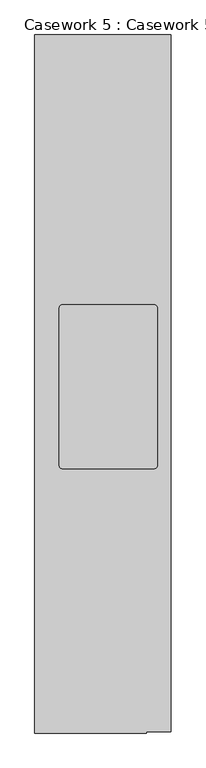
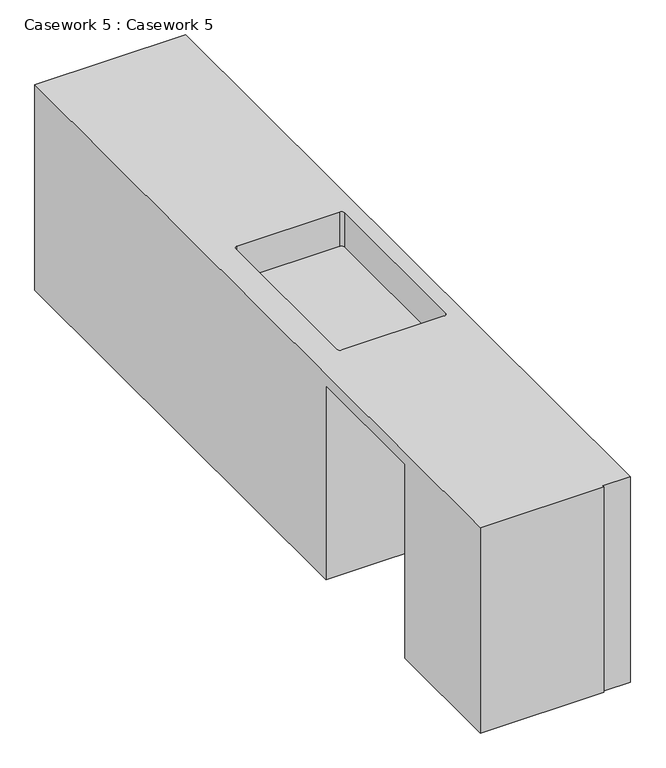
"""IFC4 building model written with IfcOpenShell, lengths in millimetres: furniture geometry, Casework 5 : Casework 5."""

from ifc_helpers import new_model, si_unit, frame, origin, place, context, project, spatial, polyline, circle_curve, source, transform, mapped, element, save
from ifc_brep_helpers import plane_surface, revolved_surface, advanced_brep


def casework_5_casework_5_048c20d9(model_context):
    return source(origin(), model_context, "Body", "AdvancedBrep", [
        advanced_brep(
        [(3937.0, 8229.4947939, 4262.4), (3302.0, 8229.4947939, 4262.4), (3302.0, 4978.2947939, 4262.4), (3822.7, 4978.2947939, 4262.4), (3822.7, 4984.6447939, 4262.4), (3937.0, 4984.6447939, 4262.4), (3429.0, 6972.1947939, 4262.4), (3860.8, 6972.1947939, 4262.4), (3873.5, 6959.4947939, 4262.4), (3873.5, 6222.8947939, 4262.4), (3860.8, 6210.1947939, 4262.4), (3429.0, 6210.1947939, 4262.4), (3416.3, 6222.8947939, 4262.4), (3416.3, 6959.4947939, 4262.4), (3937.0, 8229.4947939, 3348.0), (3937.0, 4984.6447939, 3348.0), (3822.7, 4984.6447939, 3348.0), (3822.7, 4978.2947939, 3348.0), (3302.0, 4978.2947939, 3348.0), (3302.0, 5528.7735764, 3348.0), (3886.2, 5528.7735764, 3348.0), (3886.2, 6105.4197739, 3348.0), (3302.0, 6105.4197739, 3348.0), (3302.0, 8229.4947939, 3348.0), (3302.0, 6105.4197739, 4211.6), (3302.0, 5528.7735764, 4211.6), (3429.0, 6972.1947939, 4110.0), (3416.3, 6959.4947939, 4110.0), (3416.3, 6222.8947939, 4110.0), (3429.0, 6210.1947939, 4110.0), (3860.8, 6210.1947939, 4110.0), (3873.5, 6222.8947939, 4110.0), (3873.5, 6959.4947939, 4110.0), (3860.8, 6972.1947939, 4110.0), (3886.2, 5528.7735764, 4211.6), (3886.2, 6105.4197739, 4211.6)],
        [
            (0, 1),
            (1, 2),
            (2, 3),
            (3, 4),
            (4, 5),
            (5, 0),
            (6, 7),
            (7, 8, circle_curve(frame((3860.8, 6959.4947939, 4262.4), z_axis=(0.0, 0.0, -1.0), x_axis=(0.0, 1.0, 0.0)), 12.7)),
            (8, 9),
            (9, 10, circle_curve(frame((3860.8, 6222.8947939, 4262.4), z_axis=(0.0, 0.0, -1.0), x_axis=(0.0, 1.0, 0.0)), 12.7)),
            (10, 11),
            (11, 12, circle_curve(frame((3429.0, 6222.8947939, 4262.4), z_axis=(0.0, 0.0, -1.0), x_axis=(0.0, 1.0, 0.0)), 12.7)),
            (12, 13),
            (13, 6, circle_curve(frame((3429.0, 6959.4947939, 4262.4), z_axis=(0.0, 0.0, -1.0), x_axis=(0.0, 1.0, 0.0)), 12.7)),
            (14, 15),
            (15, 16),
            (16, 17),
            (17, 18),
            (18, 19),
            (19, 20),
            (20, 21),
            (21, 22),
            (22, 23),
            (23, 14),
            (0, 14),
            (23, 1),
            (22, 24),
            (24, 25),
            (25, 19),
            (18, 2),
            (17, 3),
            (16, 4),
            (15, 5),
            (26, 27, circle_curve(frame((3429.0, 6959.4947939, 4110.0), z_axis=(0.0, 0.0, 1.0), x_axis=(0.0, 1.0, 0.0)), 12.7)),
            (27, 28),
            (28, 29, circle_curve(frame((3429.0, 6222.8947939, 4110.0), z_axis=(0.0, 0.0, 1.0), x_axis=(0.0, 1.0, 0.0)), 12.7)),
            (29, 30),
            (30, 31, circle_curve(frame((3860.8, 6222.8947939, 4110.0), z_axis=(0.0, 0.0, 1.0), x_axis=(0.0, 1.0, 0.0)), 12.7)),
            (31, 32),
            (32, 33, circle_curve(frame((3860.8, 6959.4947939, 4110.0), z_axis=(0.0, 0.0, 1.0), x_axis=(0.0, 1.0, 0.0)), 12.7)),
            (33, 26),
            (33, 7),
            (6, 26),
            (32, 8),
            (31, 9),
            (30, 10),
            (29, 11),
            (28, 12),
            (27, 13),
            (34, 25),
            (24, 35),
            (35, 34),
            (34, 20),
            (21, 35),
        ],
        [
            plane_surface(frame((3302.0, 8229.4947939, 4262.4), z_axis=(0.0, 0.0, 1.0), x_axis=(-1.0, 0.0, 0.0))),
            plane_surface(frame((3302.0, 8229.4947939, 3348.0), z_axis=(0.0, 0.0, -1.0), x_axis=(1.0, 0.0, 0.0))),
            plane_surface(frame((3937.0, 8229.4947939, 4262.4), z_axis=(0.0, 1.0, 0.0), x_axis=(0.0, 0.0, -1.0))),
            plane_surface(frame((3302.0, 8229.4947939, 4262.4), z_axis=(-1.0, 0.0, 0.0), x_axis=(0.0, 0.0, -1.0))),
            plane_surface(frame((3302.0, 4978.2947939, 4262.4), z_axis=(0.0, -1.0, 0.0), x_axis=(0.0, 0.0, -1.0))),
            plane_surface(frame((3822.7, 4978.2947939, 4262.4), z_axis=(1.0, 0.0, 0.0), x_axis=(0.0, 0.0, -1.0))),
            plane_surface(frame((3822.7, 4984.6447939, 4262.4), z_axis=(0.0, -1.0, 0.0), x_axis=(0.0, 0.0, -1.0))),
            plane_surface(frame((3937.0, 4984.6447939, 4262.4), z_axis=(1.0, 0.0, 0.0), x_axis=(0.0, 0.0, -1.0))),
            plane_surface(frame((3860.8, 6972.1947939, 4110.0), z_axis=(0.0, 0.0, 1.0), x_axis=(1.0, 0.0, 0.0))),
            plane_surface(frame((3429.0, 6972.1947939, 4110.0), z_axis=(0.0, -1.0, 0.0), x_axis=(0.0, 0.0, 1.0))),
            revolved_surface(polyline([(3860.8, 6972.1947939, 4110.0), (3860.8, 6972.1947939, 4262.4)]), (3860.8, 6959.4947939, 4262.4), (0.0, 0.0, -1.0)),
            plane_surface(frame((3873.5, 6959.4947939, 4110.0), z_axis=(-1.0, 0.0, 0.0), x_axis=(0.0, 0.0, 1.0))),
            revolved_surface(polyline([(3860.8, 6235.5947939, 4110.0), (3860.8, 6235.5947939, 4262.4)]), (3860.8, 6222.8947939, 4262.4), (0.0, 0.0, -1.0)),
            plane_surface(frame((3860.8, 6210.1947939, 4110.0), z_axis=(0.0, 1.0, 0.0), x_axis=(0.0, 0.0, 1.0))),
            revolved_surface(polyline([(3429.0, 6235.5947939, 4110.0), (3429.0, 6235.5947939, 4262.4)]), (3429.0, 6222.8947939, 4262.4), (0.0, 0.0, -1.0)),
            plane_surface(frame((3416.3, 6222.8947939, 4110.0), z_axis=(1.0, 0.0, 0.0), x_axis=(0.0, 0.0, 1.0))),
            revolved_surface(polyline([(3429.0, 6972.1947939, 4110.0), (3429.0, 6972.1947939, 4262.4)]), (3429.0, 6959.4947939, 4262.4), (0.0, 0.0, -1.0)),
            plane_surface(frame((3886.2, 5528.7735764, 4211.6), z_axis=(0.0, 0.0, -1.0), x_axis=(0.0, 1.0, 0.0))),
            plane_surface(frame((3302.0, 5528.7735764, 4211.6), z_axis=(0.0, 1.0, 0.0), x_axis=(0.0, 0.0, -1.0))),
            plane_surface(frame((3886.2, 6105.4197739, 4211.6), z_axis=(0.0, -1.0, 0.0), x_axis=(0.0, 0.0, -1.0))),
            plane_surface(frame((3886.2, 5528.7735764, 4211.6), z_axis=(-1.0, 0.0, 0.0), x_axis=(0.0, 0.0, -1.0))),
        ],
        [
            (0, [[1, 2, 3, 4, 5, 6], [7, 8, 9, 10, 11, 12, 13, 14]]),
            (1, [[15, 16, 17, 18, 19, 20, 21, 22, 23, 24]]),
            (2, [[-1, 25, -24, 26]]),
            (3, [[-2, -26, -23, 27, 28, 29, -19, 30]]),
            (4, [[-3, -30, -18, 31]]),
            (5, [[-4, -31, -17, 32]]),
            (6, [[-5, -32, -16, 33]]),
            (7, [[-6, -33, -15, -25]]),
            (8, [[34, 35, 36, 37, 38, 39, 40, 41]]),
            (9, [[-41, 42, -7, 43]]),
            (10, [[-40, 44, -8, -42]]),
            (11, [[-39, 45, -9, -44]]),
            (12, [[-38, 46, -10, -45]]),
            (13, [[-37, 47, -11, -46]]),
            (14, [[-36, 48, -12, -47]]),
            (15, [[-35, 49, -13, -48]]),
            (16, [[-34, -43, -14, -49]]),
            (17, [[50, -28, 51, 52]]),
            (18, [[-50, 53, -20, -29]]),
            (19, [[-51, -27, -22, 54]]),
            (20, [[-52, -54, -21, -53]]),
        ],
    ),
    ])


if __name__ == "__main__":
    model = new_model("IFC4")
    model_context = context("Model", 3, world=origin())
    ifc_project = project(units=[si_unit("LENGTHUNIT", "METRE", prefix="MILLI")], contexts=[model_context])
    site = spatial("IfcSite", under=ifc_project)
    building = spatial("IfcBuilding", under=site)
    placement = place(None, origin())
    casework_5_casework_5_shape = casework_5_casework_5_048c20d9(model_context)
    element("IfcFurniture", 1, ObjectType="Casework 5 : Casework 5", at=placement, inside=building, context=model_context, shape_type="MappedRepresentation", body=[
        mapped(casework_5_casework_5_shape, transform((0.0, 0.0, 0.0), x_axis=(1.0, 0.0, 0.0), y_axis=(0.0, 1.0, 0.0), z_axis=(0.0, 0.0, 1.0))),
    ])
    save(model, "model.ifc")
